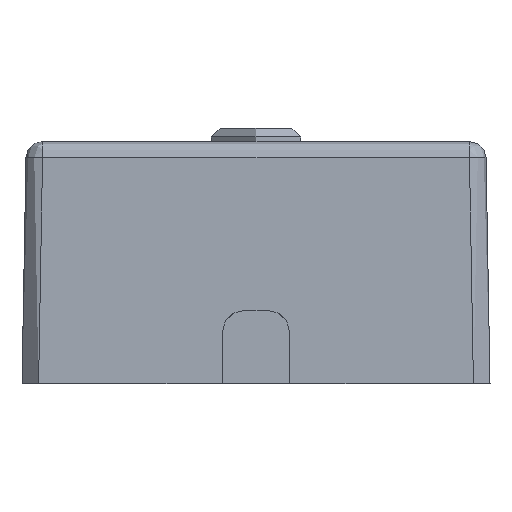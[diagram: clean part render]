
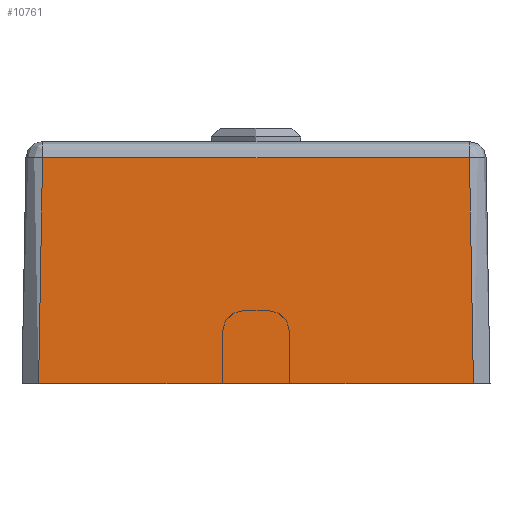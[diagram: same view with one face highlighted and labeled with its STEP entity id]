
A CAD part, left-side view. The second image highlights one B-rep face of the part: STEP entity #10761.
In plain terms, the highlighted planar face has unit normal (-1, 0, 0.018).
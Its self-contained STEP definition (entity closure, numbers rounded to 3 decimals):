
#10761=ADVANCED_FACE('',(#25374),#25376,.T.);
#25374=FACE_BOUND('',#25375,.T.);
#25375=EDGE_LOOP('',(#44754,#44755,#44756,#44757,#44758,#44759));
#25376=PLANE('',#25377);
#25377=AXIS2_PLACEMENT_3D('',#25378,#25379,#25380);
#25378=CARTESIAN_POINT('',(-71.,0.,0.035));
#25379=DIRECTION('',(-1.,0.,0.017));
#25380=DIRECTION('',(0.017,0.,1.));
#44754=ORIENTED_EDGE('',*,*,#50628,.T.);
#44755=ORIENTED_EDGE('',*,*,#50956,.T.);
#44756=ORIENTED_EDGE('',*,*,#50957,.T.);
#44757=ORIENTED_EDGE('',*,*,#50958,.T.);
#44758=ORIENTED_EDGE('',*,*,#49976,.T.);
#44759=ORIENTED_EDGE('',*,*,#50959,.T.);
#49976=EDGE_CURVE('',#56222,#56220,#56223,.T.);
#50628=EDGE_CURVE('',#57316,#57314,#57317,.T.);
#50956=EDGE_CURVE('',#57314,#57865,#57866,.T.);
#50957=EDGE_CURVE('',#57865,#57867,#57868,.T.);
#50958=EDGE_CURVE('',#57867,#56222,#57869,.F.);
#50959=EDGE_CURVE('',#56220,#57316,#57870,.T.);
#56220=VERTEX_POINT('',#80906);
#56222=VERTEX_POINT('',#80910);
#56223=LINE('',#80911,#80912);
#57314=VERTEX_POINT('',#83581);
#57316=VERTEX_POINT('',#83586);
#57317=LINE('',#83587,#83588);
#57865=VERTEX_POINT('',#84943);
#57866=LINE('',#84944,#84945);
#57867=VERTEX_POINT('',#84947);
#57868=LINE('',#84948,#84949);
#57869=LINE('',#84951,#84952);
#57870=LINE('',#84954,#84955);
#80906=CARTESIAN_POINT('',(-71.,12.5,0.035));
#80910=CARTESIAN_POINT('',(-71.,32.75,0.035));
#80911=CARTESIAN_POINT('',(-71.,32.75,0.035));
#80912=VECTOR('',#80913,1.);
#80913=DIRECTION('',(0.,-1.,0.));
#83581=CARTESIAN_POINT('',(-71.,-32.75,0.035));
#83586=CARTESIAN_POINT('',(-71.,-12.5,0.035));
#83587=CARTESIAN_POINT('',(-71.,-12.5,0.035));
#83588=VECTOR('',#83589,1.);
#83589=DIRECTION('',(0.,-1.,0.));
#84943=CARTESIAN_POINT('',(-70.406,-32.156,34.079));
#84944=CARTESIAN_POINT('',(-71.,-32.75,0.035));
#84945=VECTOR('',#84946,1.);
#84946=DIRECTION('',(0.017,0.017,1.));
#84947=CARTESIAN_POINT('',(-70.406,32.156,34.079));
#84948=CARTESIAN_POINT('',(-70.406,-32.156,34.079));
#84949=VECTOR('',#84950,1.);
#84950=DIRECTION('',(0.,1.,0.));
#84951=CARTESIAN_POINT('',(-71.,32.75,0.035));
#84952=VECTOR('',#84953,1.);
#84953=DIRECTION('',(0.017,-0.017,1.));
#84954=CARTESIAN_POINT('',(-71.,12.5,0.035));
#84955=VECTOR('',#84956,1.);
#84956=DIRECTION('',(0.,-1.,0.));
